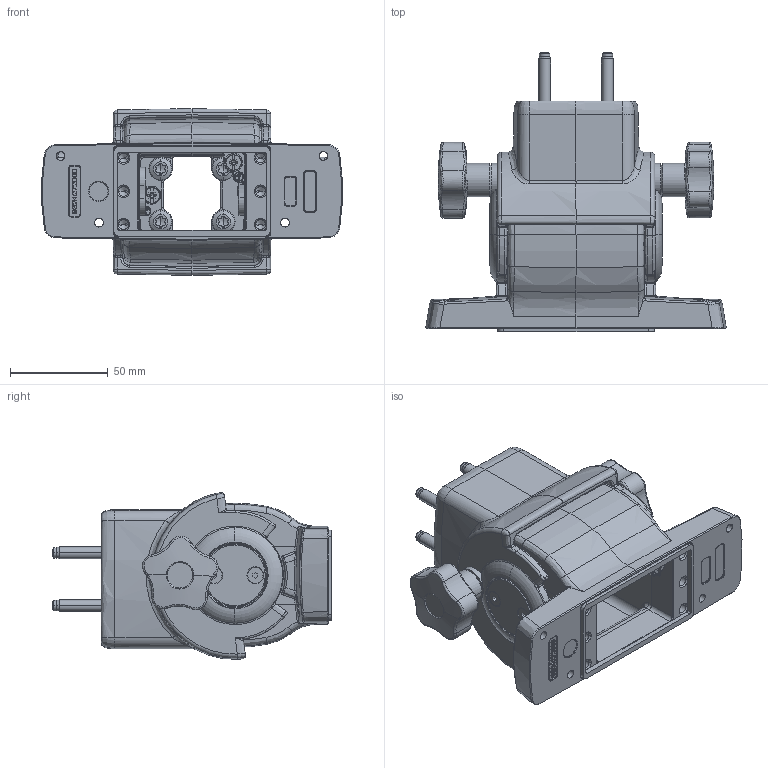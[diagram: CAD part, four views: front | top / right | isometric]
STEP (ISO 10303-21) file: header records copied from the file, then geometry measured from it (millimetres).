
FILE_DESCRIPTION((''),'2;1');
FILE_NAME('1015500003_ASM','2025-07-22T10:36:50',('Falk.Schoember'),(''),'CREO PARAMETRIC BY PTC INC, 2022124','CREO PARAMETRIC BY PTC INC, 2022124','');
FILE_SCHEMA(('AUTOMOTIVE_DESIGN { 1 0 10303 214 1 1 1 1 }'));
Products named in the file (36): 9324273000_AF0; EN_AC-47100-EN_AC-ALSI12CU_FE; 9261441000; 1_0402; 9620524000_ASM; 9641000023_ASM; 9324272000_AF0; 9620523000_ASM; 9641000022_ASM; CS-B-LIGHT_DNK_DICHTUNG; CR_20GR_SHORE_A; 9651000003_ASM; 9262163000; MESSING; 9503122000; 11SMNPB30; 2640000056; NBR_70GR_SHORE_A; 9261277000; 1_0037; 4207701043; NBR_80GR_SHORE_A; 9262156000; 9251133000; PTC_SYSTEM_MTRL_PROPS; 9503123000; CUZN39PB3; 9231082000; NBR_ZELLKAUTSCHUK_GESCHLOSS; 9261655000; 1_4301; 9231841000; NBR_ZELLKAUTSCHUK; 1015500003_ASM
Assembly tree (34 placements, depth 5):
  EN_AC-47100-EN_AC-ALSI12CU_FE
  1_0402
  EN_AC-47100-EN_AC-ALSI12CU_FE
  CR_20GR_SHORE_A
  MESSING
Bounding box: 153.47 x 142.8 x 85.15 mm (x, y, z)
Volume: 374367.7 mm3; surface area: 140005.3 mm2
Topology: 29 solids, 29 shells, 2778 faces, 6918 edges, 4238 vertices
Faces by surface type: plane 1129, cylinder 620, bspline 441, cone 302, torus 232, sphere 32, extrusion 16, revolution 6
Entity records: 134697 total; most frequent: CARTESIAN_POINT 43615, ORIENTED_EDGE 11808, DIRECTION 10310, PRESENTATION_STYLE_ASSIGNMENT 8000, STYLED_ITEM 7994, CURVE_STYLE 5926, EDGE_CURVE 5904, VERTEX_POINT 3630
